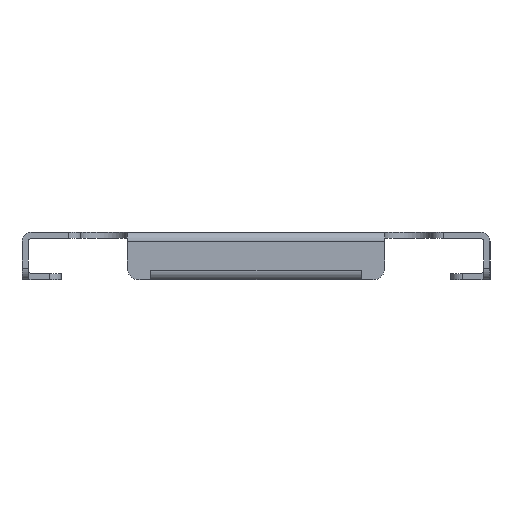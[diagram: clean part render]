
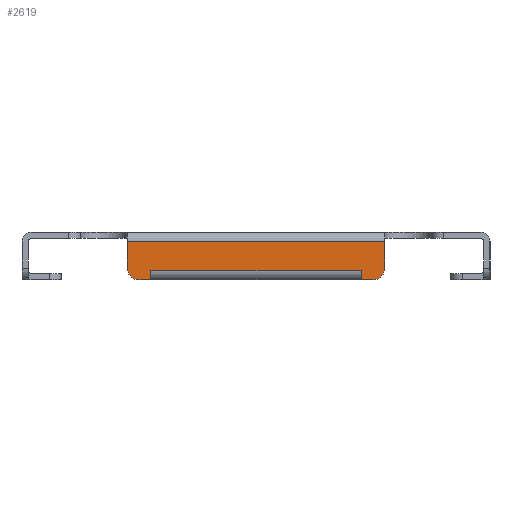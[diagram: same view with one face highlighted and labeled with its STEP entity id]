
A CAD part, left-side view. The second image highlights one B-rep face of the part: STEP entity #2619.
In plain terms, the highlighted planar face has unit normal (-1, 0, 0).
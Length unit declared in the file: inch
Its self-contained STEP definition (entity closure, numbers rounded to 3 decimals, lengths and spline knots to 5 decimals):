
#52=PLANE('',#2815);
#143=FACE_OUTER_BOUND('',#277,.T.);
#277=EDGE_LOOP('',(#1849,#1850,#1851,#1852,#1853,#1854,#1855,#1856,#1857,
#1858,#1859,#1860,#1861,#1862));
#455=LINE('',#3949,#739);
#458=LINE('',#3955,#742);
#459=LINE('',#3957,#743);
#460=LINE('',#3959,#744);
#461=LINE('',#3963,#745);
#462=LINE('',#3965,#746);
#463=LINE('',#3967,#747);
#464=LINE('',#3969,#748);
#465=LINE('',#3971,#749);
#466=LINE('',#3973,#750);
#467=LINE('',#3975,#751);
#468=LINE('',#3976,#752);
#739=VECTOR('',#3168,0.3937);
#742=VECTOR('',#3173,0.3937);
#743=VECTOR('',#3174,0.3937);
#744=VECTOR('',#3175,0.3937);
#745=VECTOR('',#3178,0.3937);
#746=VECTOR('',#3179,0.3937);
#747=VECTOR('',#3180,0.3937);
#748=VECTOR('',#3181,0.3937);
#749=VECTOR('',#3182,0.3937);
#750=VECTOR('',#3183,0.3937);
#751=VECTOR('',#3184,0.3937);
#752=VECTOR('',#3185,0.3937);
#998=CIRCLE('',#2813,0.125);
#999=CIRCLE('',#2816,0.125);
#1135=VERTEX_POINT('',#3942);
#1136=VERTEX_POINT('',#3944);
#1137=VERTEX_POINT('',#3948);
#1139=VERTEX_POINT('',#3954);
#1140=VERTEX_POINT('',#3956);
#1141=VERTEX_POINT('',#3958);
#1142=VERTEX_POINT('',#3960);
#1143=VERTEX_POINT('',#3962);
#1144=VERTEX_POINT('',#3964);
#1145=VERTEX_POINT('',#3966);
#1146=VERTEX_POINT('',#3968);
#1147=VERTEX_POINT('',#3970);
#1148=VERTEX_POINT('',#3972);
#1149=VERTEX_POINT('',#3974);
#1423=EDGE_CURVE('',#1135,#1136,#998,.T.);
#1425=EDGE_CURVE('',#1137,#1136,#455,.T.);
#1428=EDGE_CURVE('',#1135,#1139,#458,.T.);
#1429=EDGE_CURVE('',#1140,#1139,#459,.T.);
#1430=EDGE_CURVE('',#1140,#1141,#460,.T.);
#1431=EDGE_CURVE('',#1142,#1141,#999,.T.);
#1432=EDGE_CURVE('',#1142,#1143,#461,.T.);
#1433=EDGE_CURVE('',#1143,#1144,#462,.T.);
#1434=EDGE_CURVE('',#1144,#1145,#463,.T.);
#1435=EDGE_CURVE('',#1145,#1146,#464,.T.);
#1436=EDGE_CURVE('',#1146,#1147,#465,.T.);
#1437=EDGE_CURVE('',#1147,#1148,#466,.T.);
#1438=EDGE_CURVE('',#1148,#1149,#467,.T.);
#1439=EDGE_CURVE('',#1149,#1137,#468,.T.);
#1849=ORIENTED_EDGE('',*,*,#1423,.F.);
#1850=ORIENTED_EDGE('',*,*,#1428,.T.);
#1851=ORIENTED_EDGE('',*,*,#1429,.F.);
#1852=ORIENTED_EDGE('',*,*,#1430,.T.);
#1853=ORIENTED_EDGE('',*,*,#1431,.F.);
#1854=ORIENTED_EDGE('',*,*,#1432,.T.);
#1855=ORIENTED_EDGE('',*,*,#1433,.T.);
#1856=ORIENTED_EDGE('',*,*,#1434,.T.);
#1857=ORIENTED_EDGE('',*,*,#1435,.T.);
#1858=ORIENTED_EDGE('',*,*,#1436,.T.);
#1859=ORIENTED_EDGE('',*,*,#1437,.T.);
#1860=ORIENTED_EDGE('',*,*,#1438,.T.);
#1861=ORIENTED_EDGE('',*,*,#1439,.T.);
#1862=ORIENTED_EDGE('',*,*,#1425,.T.);
#2619=ADVANCED_FACE('',(#143),#52,.F.);
#2813=AXIS2_PLACEMENT_3D('',#3945,#3163,#3164);
#2815=AXIS2_PLACEMENT_3D('',#3953,#3171,#3172);
#2816=AXIS2_PLACEMENT_3D('',#3961,#3176,#3177);
#3163=DIRECTION('center_axis',(1.,0.,0.));
#3164=DIRECTION('ref_axis',(0.,-0.707,-0.707));
#3168=DIRECTION('',(0.,-1.,0.));
#3171=DIRECTION('center_axis',(1.,0.,0.));
#3172=DIRECTION('ref_axis',(0.,0.,-1.));
#3173=DIRECTION('',(0.,0.,1.));
#3174=DIRECTION('',(0.,-1.,0.));
#3175=DIRECTION('',(0.,0.,-1.));
#3176=DIRECTION('center_axis',(1.,0.,0.));
#3177=DIRECTION('ref_axis',(0.,0.707,-0.707));
#3178=DIRECTION('',(0.,-1.,0.));
#3179=DIRECTION('',(0.,0.,1.));
#3180=DIRECTION('',(0.,-1.,0.));
#3181=DIRECTION('',(0.,0.,-1.));
#3182=DIRECTION('',(0.,-1.,0.));
#3183=DIRECTION('',(0.,0.,1.));
#3184=DIRECTION('',(0.,-1.,0.));
#3185=DIRECTION('',(0.,0.,-1.));
#3942=CARTESIAN_POINT('',(-9.0625,-1.375,-0.319));
#3944=CARTESIAN_POINT('',(-9.0625,-1.25,-0.444));
#3945=CARTESIAN_POINT('Origin',(-9.0625,-1.25,-0.319));
#3948=CARTESIAN_POINT('',(-9.0625,-1.1252,-0.444));
#3949=CARTESIAN_POINT('',(-9.0625,1.375,-0.444));
#3953=CARTESIAN_POINT('Origin',(-9.0625,0.,-0.188));
#3954=CARTESIAN_POINT('',(-9.0625,-1.375,-0.031));
#3955=CARTESIAN_POINT('',(-9.0625,-1.375,-0.444));
#3956=CARTESIAN_POINT('',(-9.0625,1.375,-0.031));
#3957=CARTESIAN_POINT('',(-9.0625,-1.375,-0.031));
#3958=CARTESIAN_POINT('',(-9.0625,1.375,-0.319));
#3959=CARTESIAN_POINT('',(-9.0625,1.375,0.068));
#3960=CARTESIAN_POINT('',(-9.0625,1.25,-0.444));
#3961=CARTESIAN_POINT('Origin',(-9.0625,1.25,-0.319));
#3962=CARTESIAN_POINT('',(-9.0625,1.1252,-0.444));
#3963=CARTESIAN_POINT('',(-9.0625,1.375,-0.444));
#3964=CARTESIAN_POINT('',(-9.0625,1.1252,-0.3448));
#3965=CARTESIAN_POINT('',(-9.0625,1.1252,-0.316));
#3966=CARTESIAN_POINT('',(-9.0625,1.125,-0.3448));
#3967=CARTESIAN_POINT('',(-9.0625,0.5626,-0.3448));
#3968=CARTESIAN_POINT('',(-9.0625,1.125,-0.345));
#3969=CARTESIAN_POINT('',(-9.0625,1.125,-0.2664));
#3970=CARTESIAN_POINT('',(-9.0625,-1.125,-0.345));
#3971=CARTESIAN_POINT('',(-9.0625,-0.5625,-0.345));
#3972=CARTESIAN_POINT('',(-9.0625,-1.125,-0.3448));
#3973=CARTESIAN_POINT('',(-9.0625,-1.125,-0.316));
#3974=CARTESIAN_POINT('',(-9.0625,-1.1252,-0.3448));
#3975=CARTESIAN_POINT('',(-9.0625,-0.5625,-0.3448));
#3976=CARTESIAN_POINT('',(-9.0625,-1.1252,-0.2664));
